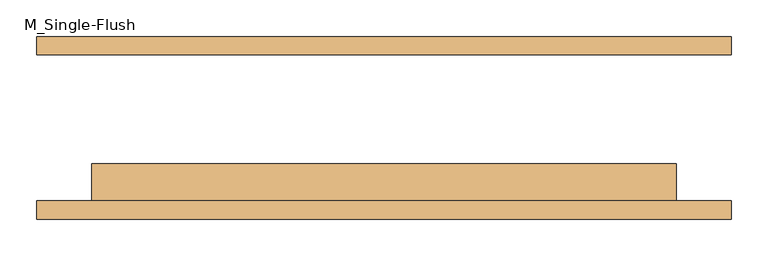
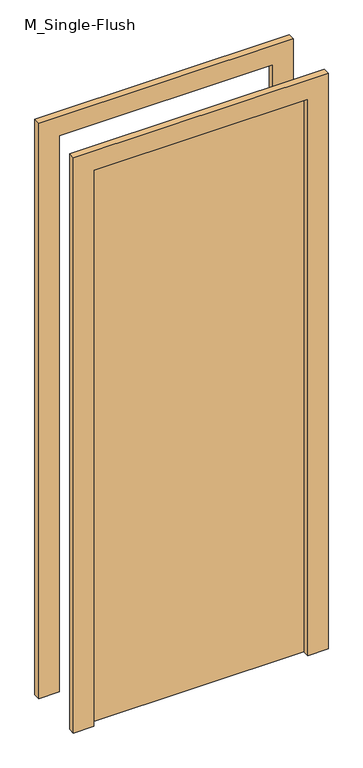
"""IFC4 building model written with IfcOpenShell, lengths in millimetres: door geometry, M_Single-Flush : ب 8."""

from ifc_helpers import new_model, si_unit, frame, origin, origin_with_axes, place, context, project, spatial, polyline, outline, extrude, source, transform, mapped, element, save


def m_single_flush_07c1bf8b(model_context):
    return source(origin(), model_context, "Body", "SweptSolid", [
        extrude(outline(polyline([(2276.0, -476.0), (0.0, -476.0), (0.0, -400.0), (2200.0, -400.0), (2200.0, 400.0), (0.0, 400.0), (0.0, 476.0), (2276.0, 476.0), (2276.0, -476.0)])), frame((0.0, -125.0, 0.0), z_axis=(0.0, 1.0, 0.0), x_axis=(0.0, 0.0, 1.0)), (0.0, 0.0, 1.0), 25.0),
        extrude(outline(polyline([(2276.0, 476.0), (2276.0, -476.0), (0.0, -476.0), (0.0, -400.0), (2200.0, -400.0), (2200.0, 400.0), (0.0, 400.0), (0.0, 476.0), (2276.0, 476.0)])), frame((0.0, 100.0, 0.0), z_axis=(0.0, 1.0, 0.0), x_axis=(0.0, 0.0, 1.0)), (0.0, 0.0, 1.0), 25.0),
        extrude(outline(polyline([(400.0, -49.0), (400.0, -100.0), (-400.0, -100.0), (-400.0, -49.0), (400.0, -49.0)])), origin_with_axes(), (0.0, 0.0, 1.0), 2200.0),
    ])


if __name__ == "__main__":
    model = new_model("IFC4")
    model_context = context("Model", 3, world=origin())
    ifc_project = project(units=[si_unit("LENGTHUNIT", "METRE", prefix="MILLI")], contexts=[model_context])
    site = spatial("IfcSite", under=ifc_project)
    building = spatial("IfcBuilding", under=site)
    placement = place(None, origin())
    m_single_flush_shape = m_single_flush_07c1bf8b(model_context)
    element("IfcDoor", 1, ObjectType="M_Single-Flush : ب 8", at=placement, inside=building, context=model_context, shape_type="MappedRepresentation", body=[
        mapped(m_single_flush_shape, transform((0.0, 0.0, 0.0), x_axis=(1.0, 0.0, 0.0), y_axis=(0.0, 1.0, 0.0), z_axis=(0.0, 0.0, 1.0))),
    ])
    save(model, "model.ifc")
